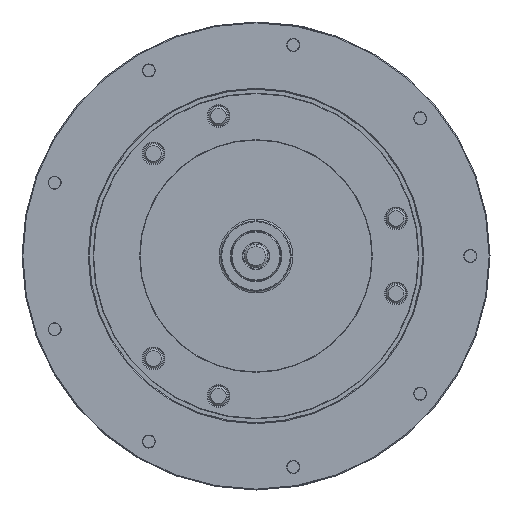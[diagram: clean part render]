
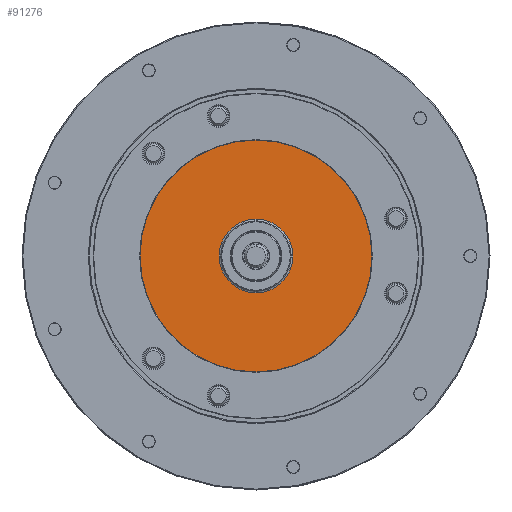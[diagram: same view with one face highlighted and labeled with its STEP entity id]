
A CAD part, left-side view. The second image highlights one B-rep face of the part: STEP entity #91276.
In plain terms, the highlighted planar face has unit normal (-1, 0, 0).
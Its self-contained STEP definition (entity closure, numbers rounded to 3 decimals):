
#251 = EDGE_LOOP ( 'NONE', ( #29236, #38995 ) ) ;
#714 = DIRECTION ( 'NONE',  ( 0., 0., -1. ) ) ;
#1372 = CIRCLE ( 'NONE', #4989, 132. ) ;
#2059 = EDGE_CURVE ( 'NONE', #102943, #93958, #4616, .T. ) ;
#2769 = AXIS2_PLACEMENT_3D ( 'NONE', #59670, #68759, #60228 ) ;
#4616 = CIRCLE ( 'NONE', #31772, 42. ) ;
#4989 = AXIS2_PLACEMENT_3D ( 'NONE', #20139, #53659, #37732 ) ;
#9112 = PLANE ( 'NONE',  #2769 ) ;
#9767 = DIRECTION ( 'NONE',  ( 1., 0., 0. ) ) ;
#17030 = FACE_BOUND ( 'NONE', #58348, .T. ) ;
#17866 = CARTESIAN_POINT ( 'NONE',  ( -111.5, 0., 0. ) ) ;
#20139 = CARTESIAN_POINT ( 'NONE',  ( -111.5, 0., 0. ) ) ;
#23252 = VERTEX_POINT ( 'NONE', #41066 ) ;
#26430 = CARTESIAN_POINT ( 'NONE',  ( -111.5, 0., 0. ) ) ;
#29236 = ORIENTED_EDGE ( 'NONE', *, *, #90620, .F. ) ;
#29883 = EDGE_CURVE ( 'NONE', #112233, #23252, #1372, .T. ) ;
#31772 = AXIS2_PLACEMENT_3D ( 'NONE', #17866, #44552, #35460 ) ;
#35460 = DIRECTION ( 'NONE',  ( 0., 0., -1. ) ) ;
#37050 = ORIENTED_EDGE ( 'NONE', *, *, #2059, .T. ) ;
#37732 = DIRECTION ( 'NONE',  ( 0., 0., -1. ) ) ;
#38995 = ORIENTED_EDGE ( 'NONE', *, *, #29883, .F. ) ;
#39125 = CARTESIAN_POINT ( 'NONE',  ( -111.5, 0., -132. ) ) ;
#41066 = CARTESIAN_POINT ( 'NONE',  ( -111.5, 0., 132. ) ) ;
#44552 = DIRECTION ( 'NONE',  ( 1., 0., 0. ) ) ;
#53659 = DIRECTION ( 'NONE',  ( 1., 0., 0. ) ) ;
#56679 = ORIENTED_EDGE ( 'NONE', *, *, #70779, .T. ) ;
#58348 = EDGE_LOOP ( 'NONE', ( #56679, #37050 ) ) ;
#59670 = CARTESIAN_POINT ( 'NONE',  ( -111.5, -42., 0. ) ) ;
#60228 = DIRECTION ( 'NONE',  ( 0., 0., -1. ) ) ;
#61700 = DIRECTION ( 'NONE',  ( 0., 0., -1. ) ) ;
#64108 = CARTESIAN_POINT ( 'NONE',  ( -111.5, 0., 42. ) ) ;
#68759 = DIRECTION ( 'NONE',  ( 1., 0., 0. ) ) ;
#69429 = CARTESIAN_POINT ( 'NONE',  ( -111.5, 0., 0. ) ) ;
#69490 = CIRCLE ( 'NONE', #73153, 42. ) ;
#70136 = CARTESIAN_POINT ( 'NONE',  ( -111.5, 0., -42. ) ) ;
#70220 = DIRECTION ( 'NONE',  ( 1., 0., 0. ) ) ;
#70779 = EDGE_CURVE ( 'NONE', #93958, #102943, #69490, .T. ) ;
#73153 = AXIS2_PLACEMENT_3D ( 'NONE', #26430, #70220, #61700 ) ;
#90620 = EDGE_CURVE ( 'NONE', #23252, #112233, #107808, .T. ) ;
#91276 = ADVANCED_FACE ( 'NONE', ( #95928, #17030 ), #9112, .F. ) ;
#93958 = VERTEX_POINT ( 'NONE', #70136 ) ;
#95928 = FACE_OUTER_BOUND ( 'NONE', #251, .T. ) ;
#100556 = AXIS2_PLACEMENT_3D ( 'NONE', #69429, #9767, #714 ) ;
#102943 = VERTEX_POINT ( 'NONE', #64108 ) ;
#107808 = CIRCLE ( 'NONE', #100556, 132. ) ;
#112233 = VERTEX_POINT ( 'NONE', #39125 ) ;
